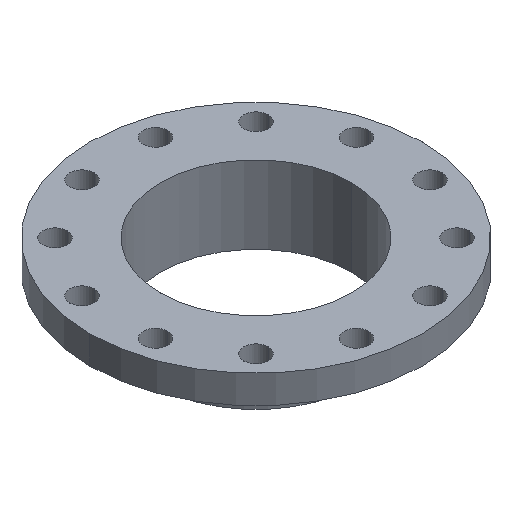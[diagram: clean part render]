
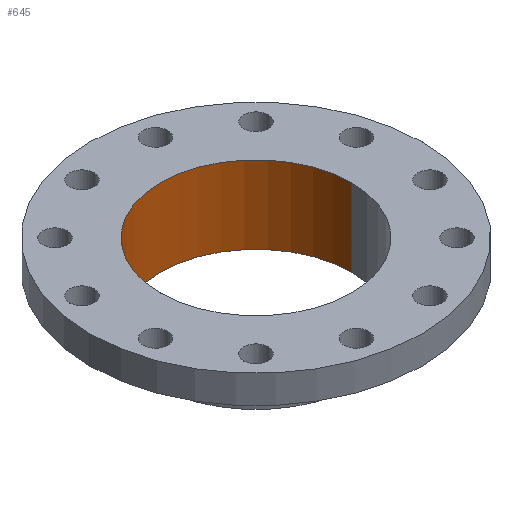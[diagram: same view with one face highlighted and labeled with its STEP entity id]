
A CAD part, isometric view. The second image highlights one B-rep face of the part: STEP entity #645.
In plain terms, the highlighted cylindrical face has radius 129.4 mm (diameter 258.8 mm), a partial arc.
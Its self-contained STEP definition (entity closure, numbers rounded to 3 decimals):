
#17 = AXIS2_PLACEMENT_3D ( 'NONE', #155, #153, #152 ) ;
#18 = CIRCLE ( 'NONE', #397, 129.4 ) ;
#20 = EDGE_LOOP ( 'NONE', ( #907, #923, #927, #930 ) ) ;
#99 = CARTESIAN_POINT ( 'NONE',  ( -129.4, 0., -105. ) ) ;
#107 = DIRECTION ( 'NONE',  ( 0., 0., -1. ) ) ;
#109 = CARTESIAN_POINT ( 'NONE',  ( -129.4, 0., -115. ) ) ;
#110 = LINE ( 'NONE', #109, #1153 ) ;
#125 = DIRECTION ( 'NONE',  ( 0., 0., -1. ) ) ;
#126 = CARTESIAN_POINT ( 'NONE',  ( 129.4, 0., -115. ) ) ;
#129 = LINE ( 'NONE', #126, #339 ) ;
#139 = DIRECTION ( 'NONE',  ( -1., 0., 0. ) ) ;
#140 = DIRECTION ( 'NONE',  ( 0., 0., -1. ) ) ;
#142 = CARTESIAN_POINT ( 'NONE',  ( 0., 0., 0. ) ) ;
#152 = DIRECTION ( 'NONE',  ( -1., 0., 0. ) ) ;
#153 = DIRECTION ( 'NONE',  ( 0., 0., -1. ) ) ;
#155 = CARTESIAN_POINT ( 'NONE',  ( 0., 0., -105. ) ) ;
#215 = CARTESIAN_POINT ( 'NONE',  ( -129.4, 0., 0. ) ) ;
#339 = VECTOR ( 'NONE', #125, 1000. ) ;
#341 = AXIS2_PLACEMENT_3D ( 'NONE', #594, #593, #592 ) ;
#397 = AXIS2_PLACEMENT_3D ( 'NONE', #142, #140, #139 ) ;
#404 = CARTESIAN_POINT ( 'NONE',  ( 129.4, 0., -105. ) ) ;
#427 = CARTESIAN_POINT ( 'NONE',  ( 129.4, 0., 0. ) ) ;
#592 = DIRECTION ( 'NONE',  ( -1., 0., 0. ) ) ;
#593 = DIRECTION ( 'NONE',  ( 0., 0., -1. ) ) ;
#594 = CARTESIAN_POINT ( 'NONE',  ( 0., 0., -115. ) ) ;
#595 = FACE_OUTER_BOUND ( 'NONE', #20, .T. ) ;
#612 = CYLINDRICAL_SURFACE ( 'NONE', #341, 129.4 ) ;
#622 = CIRCLE ( 'NONE', #17, 129.4 ) ;
#645 = ADVANCED_FACE ( 'NONE', ( #595 ), #612, .F. ) ;
#878 = VERTEX_POINT ( 'NONE', #427 ) ;
#900 = VERTEX_POINT ( 'NONE', #404 ) ;
#907 = ORIENTED_EDGE ( 'NONE', *, *, #1203, .F. ) ;
#923 = ORIENTED_EDGE ( 'NONE', *, *, #1188, .F. ) ;
#927 = ORIENTED_EDGE ( 'NONE', *, *, #1239, .T. ) ;
#930 = ORIENTED_EDGE ( 'NONE', *, *, #1180, .T. ) ;
#1098 = VERTEX_POINT ( 'NONE', #215 ) ;
#1153 = VECTOR ( 'NONE', #107, 1000. ) ;
#1180 = EDGE_CURVE ( 'NONE', #1245, #900, #622, .T. ) ;
#1188 = EDGE_CURVE ( 'NONE', #1098, #878, #18, .T. ) ;
#1203 = EDGE_CURVE ( 'NONE', #878, #900, #129, .T. ) ;
#1239 = EDGE_CURVE ( 'NONE', #1098, #1245, #110, .T. ) ;
#1245 = VERTEX_POINT ( 'NONE', #99 ) ;
